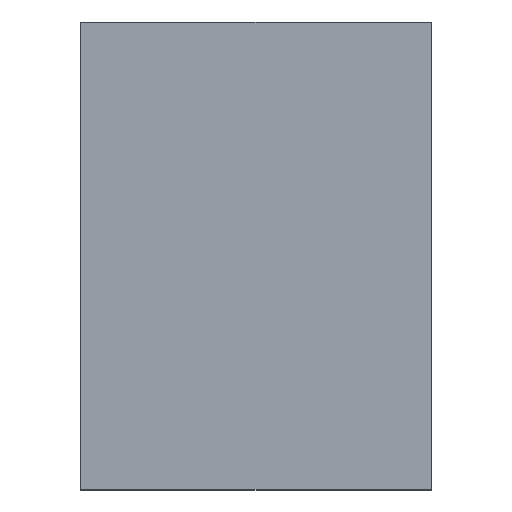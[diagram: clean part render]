
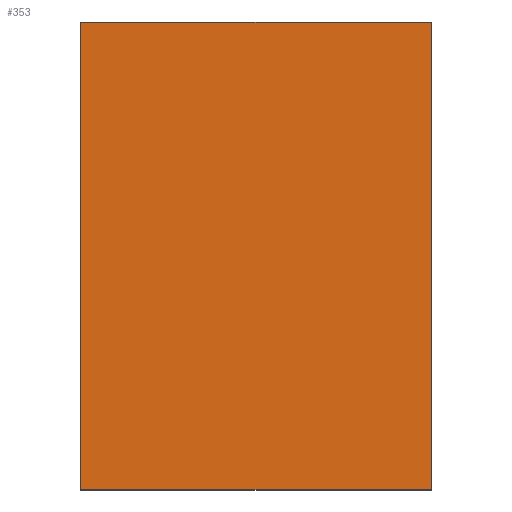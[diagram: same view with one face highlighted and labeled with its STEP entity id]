
A CAD part, top view. The second image highlights one B-rep face of the part: STEP entity #353.
In plain terms, the highlighted planar face has unit normal (0, 0, 1).
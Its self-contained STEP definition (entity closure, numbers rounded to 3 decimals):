
#39 = VERTEX_POINT('',#40);
#40 = CARTESIAN_POINT('',(-0.75,-1.,0.8));
#47 = PLANE('',#48);
#48 = AXIS2_PLACEMENT_3D('',#49,#50,#51);
#49 = CARTESIAN_POINT('',(-0.75,-1.,0.));
#50 = DIRECTION('',(0.,1.,0.));
#51 = DIRECTION('',(1.,0.,0.));
#59 = PLANE('',#60);
#60 = AXIS2_PLACEMENT_3D('',#61,#62,#63);
#61 = CARTESIAN_POINT('',(-0.75,1.,0.));
#62 = DIRECTION('',(1.,0.,-0.));
#63 = DIRECTION('',(0.,-1.,0.));
#71 = EDGE_CURVE('',#39,#72,#74,.T.);
#72 = VERTEX_POINT('',#73);
#73 = CARTESIAN_POINT('',(0.75,-1.,0.8));
#74 = SURFACE_CURVE('',#75,(#79,#86),.PCURVE_S1.);
#75 = LINE('',#76,#77);
#76 = CARTESIAN_POINT('',(-0.75,-1.,0.8));
#77 = VECTOR('',#78,1.);
#78 = DIRECTION('',(1.,0.,0.));
#79 = PCURVE('',#47,#80);
#80 = DEFINITIONAL_REPRESENTATION('',(#81),#85);
#81 = LINE('',#82,#83);
#82 = CARTESIAN_POINT('',(0.,-0.8));
#83 = VECTOR('',#84,1.);
#84 = DIRECTION('',(1.,0.));
#85 = ( GEOMETRIC_REPRESENTATION_CONTEXT(2) 
PARAMETRIC_REPRESENTATION_CONTEXT() REPRESENTATION_CONTEXT('2D SPACE',''
  ) );
#86 = PCURVE('',#87,#92);
#87 = PLANE('',#88);
#88 = AXIS2_PLACEMENT_3D('',#89,#90,#91);
#89 = CARTESIAN_POINT('',(0.,0.,0.8));
#90 = DIRECTION('',(0.,0.,1.));
#91 = DIRECTION('',(1.,0.,0.));
#92 = DEFINITIONAL_REPRESENTATION('',(#93),#97);
#93 = LINE('',#94,#95);
#94 = CARTESIAN_POINT('',(-0.75,-1.));
#95 = VECTOR('',#96,1.);
#96 = DIRECTION('',(1.,0.));
#97 = ( GEOMETRIC_REPRESENTATION_CONTEXT(2) 
PARAMETRIC_REPRESENTATION_CONTEXT() REPRESENTATION_CONTEXT('2D SPACE',''
  ) );
#115 = PLANE('',#116);
#116 = AXIS2_PLACEMENT_3D('',#117,#118,#119);
#117 = CARTESIAN_POINT('',(0.75,-1.,0.));
#118 = DIRECTION('',(-1.,0.,0.));
#119 = DIRECTION('',(0.,1.,0.));
#157 = EDGE_CURVE('',#72,#158,#160,.T.);
#158 = VERTEX_POINT('',#159);
#159 = CARTESIAN_POINT('',(0.75,1.,0.8));
#160 = SURFACE_CURVE('',#161,(#165,#172),.PCURVE_S1.);
#161 = LINE('',#162,#163);
#162 = CARTESIAN_POINT('',(0.75,-1.,0.8));
#163 = VECTOR('',#164,1.);
#164 = DIRECTION('',(0.,1.,0.));
#165 = PCURVE('',#115,#166);
#166 = DEFINITIONAL_REPRESENTATION('',(#167),#171);
#167 = LINE('',#168,#169);
#168 = CARTESIAN_POINT('',(0.,-0.8));
#169 = VECTOR('',#170,1.);
#170 = DIRECTION('',(1.,0.));
#171 = ( GEOMETRIC_REPRESENTATION_CONTEXT(2) 
PARAMETRIC_REPRESENTATION_CONTEXT() REPRESENTATION_CONTEXT('2D SPACE',''
  ) );
#172 = PCURVE('',#87,#173);
#173 = DEFINITIONAL_REPRESENTATION('',(#174),#178);
#174 = LINE('',#175,#176);
#175 = CARTESIAN_POINT('',(0.75,-1.));
#176 = VECTOR('',#177,1.);
#177 = DIRECTION('',(0.,1.));
#178 = ( GEOMETRIC_REPRESENTATION_CONTEXT(2) 
PARAMETRIC_REPRESENTATION_CONTEXT() REPRESENTATION_CONTEXT('2D SPACE',''
  ) );
#196 = PLANE('',#197);
#197 = AXIS2_PLACEMENT_3D('',#198,#199,#200);
#198 = CARTESIAN_POINT('',(0.75,1.,0.));
#199 = DIRECTION('',(0.,-1.,0.));
#200 = DIRECTION('',(-1.,0.,0.));
#233 = EDGE_CURVE('',#158,#234,#236,.T.);
#234 = VERTEX_POINT('',#235);
#235 = CARTESIAN_POINT('',(-0.75,1.,0.8));
#236 = SURFACE_CURVE('',#237,(#241,#248),.PCURVE_S1.);
#237 = LINE('',#238,#239);
#238 = CARTESIAN_POINT('',(0.75,1.,0.8));
#239 = VECTOR('',#240,1.);
#240 = DIRECTION('',(-1.,0.,0.));
#241 = PCURVE('',#196,#242);
#242 = DEFINITIONAL_REPRESENTATION('',(#243),#247);
#243 = LINE('',#244,#245);
#244 = CARTESIAN_POINT('',(0.,-0.8));
#245 = VECTOR('',#246,1.);
#246 = DIRECTION('',(1.,0.));
#247 = ( GEOMETRIC_REPRESENTATION_CONTEXT(2) 
PARAMETRIC_REPRESENTATION_CONTEXT() REPRESENTATION_CONTEXT('2D SPACE',''
  ) );
#248 = PCURVE('',#87,#249);
#249 = DEFINITIONAL_REPRESENTATION('',(#250),#254);
#250 = LINE('',#251,#252);
#251 = CARTESIAN_POINT('',(0.75,1.));
#252 = VECTOR('',#253,1.);
#253 = DIRECTION('',(-1.,0.));
#254 = ( GEOMETRIC_REPRESENTATION_CONTEXT(2) 
PARAMETRIC_REPRESENTATION_CONTEXT() REPRESENTATION_CONTEXT('2D SPACE',''
  ) );
#304 = EDGE_CURVE('',#234,#39,#305,.T.);
#305 = SURFACE_CURVE('',#306,(#310,#317),.PCURVE_S1.);
#306 = LINE('',#307,#308);
#307 = CARTESIAN_POINT('',(-0.75,1.,0.8));
#308 = VECTOR('',#309,1.);
#309 = DIRECTION('',(0.,-1.,0.));
#310 = PCURVE('',#59,#311);
#311 = DEFINITIONAL_REPRESENTATION('',(#312),#316);
#312 = LINE('',#313,#314);
#313 = CARTESIAN_POINT('',(0.,-0.8));
#314 = VECTOR('',#315,1.);
#315 = DIRECTION('',(1.,0.));
#316 = ( GEOMETRIC_REPRESENTATION_CONTEXT(2) 
PARAMETRIC_REPRESENTATION_CONTEXT() REPRESENTATION_CONTEXT('2D SPACE',''
  ) );
#317 = PCURVE('',#87,#318);
#318 = DEFINITIONAL_REPRESENTATION('',(#319),#323);
#319 = LINE('',#320,#321);
#320 = CARTESIAN_POINT('',(-0.75,1.));
#321 = VECTOR('',#322,1.);
#322 = DIRECTION('',(0.,-1.));
#323 = ( GEOMETRIC_REPRESENTATION_CONTEXT(2) 
PARAMETRIC_REPRESENTATION_CONTEXT() REPRESENTATION_CONTEXT('2D SPACE',''
  ) );
#353 = ADVANCED_FACE('',(#354),#87,.T.);
#354 = FACE_BOUND('',#355,.T.);
#355 = EDGE_LOOP('',(#356,#357,#358,#359));
#356 = ORIENTED_EDGE('',*,*,#71,.T.);
#357 = ORIENTED_EDGE('',*,*,#157,.T.);
#358 = ORIENTED_EDGE('',*,*,#233,.T.);
#359 = ORIENTED_EDGE('',*,*,#304,.T.);
